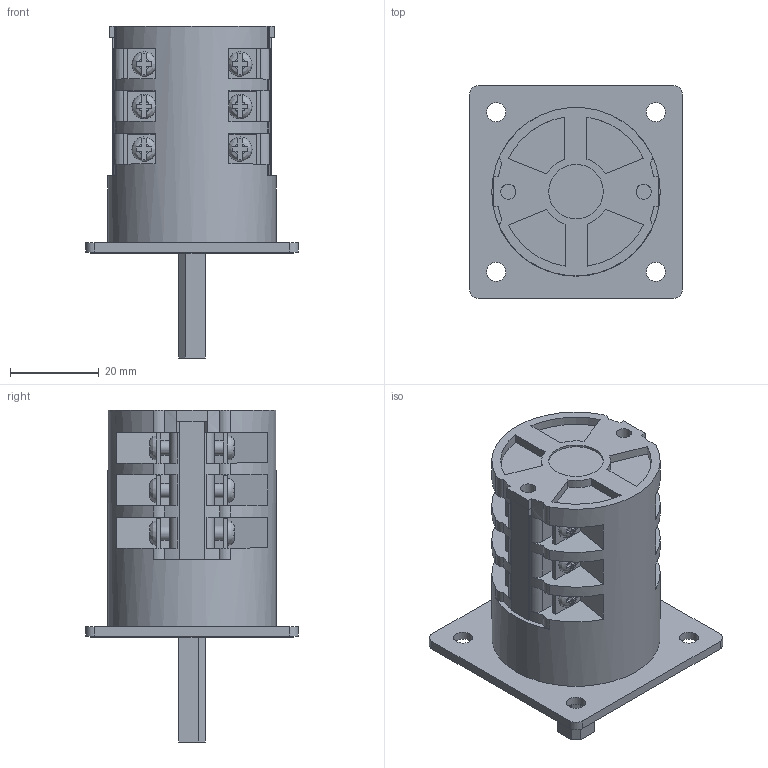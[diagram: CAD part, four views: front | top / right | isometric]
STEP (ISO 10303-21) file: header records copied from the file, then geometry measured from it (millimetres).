
FILE_DESCRIPTION(/* description */ (''),/* implementation_level */ '2;1');
FILE_NAME(/* name */ '4G10-U_standard_3_korpusy.stp',/* time_stamp */ '2021-07-21T07:32:43+02:00',/* author */ (''),/* organization */ (''),/* preprocessor_version */ 'ST-DEVELOPER v18.1',/* originating_system */ 'SIEMENS PLM Software NX 1965',/* authorisation */ '');
FILE_SCHEMA (('TECHNICAL_DATA_PACKAGING'));
Length unit declared in the file: millimetre
Products named in the file (1): 4G10-U_standard_3_korpusy_stp
Bounding box: 48 x 48 x 74.9 mm (x, y, z)
Volume: 51815.2 mm3; surface area: 18678.5 mm2
Topology: 1 solids, 1 shells, 529 faces, 1423 edges, 945 vertices
Faces by surface type: plane 414, cylinder 101, bspline 12, torus 2
Full cylindrical faces by diameter (mm): 3.2 x12, 3.4 x3, 4.3 x4, 6.2 x2, 7.2 x4, 12.3 x1, 16.2 x1, 16.8 x1, 38 x1
Entity records: 16471 total; most frequent: CARTESIAN_POINT 3485, ORIENTED_EDGE 2694, DIRECTION 2605, EDGE_CURVE 1347, VERTEX_POINT 912, LINE 877, VECTOR 877, AXIS2_PLACEMENT_3D 864
